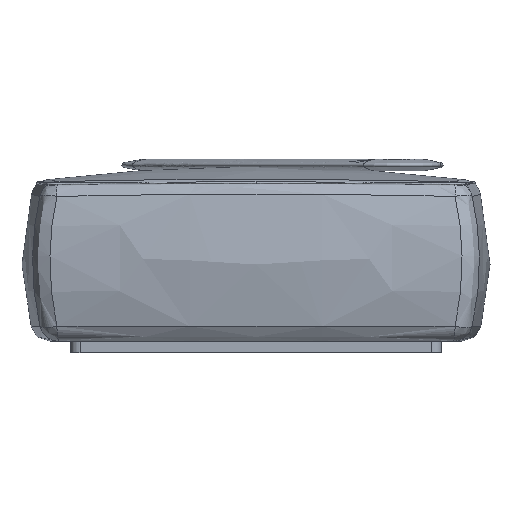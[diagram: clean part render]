
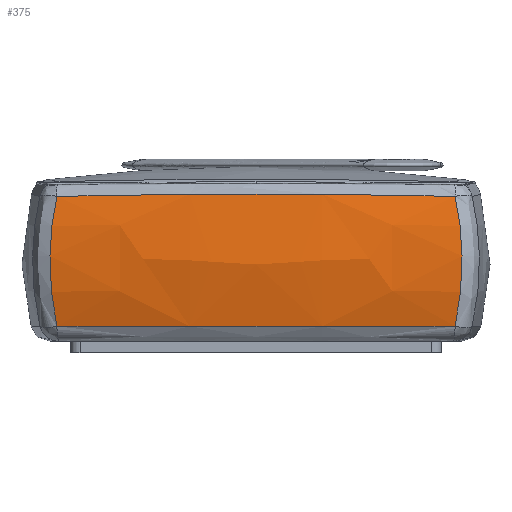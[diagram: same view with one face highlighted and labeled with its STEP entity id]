
A CAD part, left-side view. The second image highlights one B-rep face of the part: STEP entity #375.
In plain terms, the highlighted free-form (B-spline) face has degree [3, 2] with [5, 3] control points.
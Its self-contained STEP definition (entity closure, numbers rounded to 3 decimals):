
#56=(
BOUNDED_CURVE()
B_SPLINE_CURVE(3,(#5373,#5374,#5375,#5376,#5377,#5378,#5379,#5380,#5381,
#5382,#5383,#5384,#5385,#5386,#5387,#5388),.UNSPECIFIED.,.F.,.F.)
B_SPLINE_CURVE_WITH_KNOTS((4,3,3,3,3,4),(28.604,97.025,
167.288,242.138,316.988,342.954),
 .UNSPECIFIED.)
CURVE()
GEOMETRIC_REPRESENTATION_ITEM()
RATIONAL_B_SPLINE_CURVE((1.,1.,1.,1.,1.,1.,1.,1.,1.,1.,1.,1.,1.,1.,1.,1.))
REPRESENTATION_ITEM('')
);
#60=(
BOUNDED_CURVE()
B_SPLINE_CURVE(3,(#5432,#5433,#5434,#5435,#5436,#5437,#5438,#5439,#5440,
#5441,#5442,#5443,#5444,#5445,#5446,#5447,#5448,#5449,#5450,#5451,#5452,
#5453,#5454,#5455,#5456,#5457,#5458,#5459,#5460,#5461,#5462,#5463,#5464,
#5465,#5466,#5467,#5468),.UNSPECIFIED.,.F.,.F.)
B_SPLINE_CURVE_WITH_KNOTS((4,3,3,3,3,3,3,3,3,3,3,3,4),(30.735,
79.037,150.272,221.507,299.517,377.527,
537.389,697.251,775.261,853.271,924.506,
995.741,1044.043),.UNSPECIFIED.)
CURVE()
GEOMETRIC_REPRESENTATION_ITEM()
RATIONAL_B_SPLINE_CURVE((1.,1.,1.,1.,1.,1.,1.,1.,1.,1.,1.,1.,1.,1.,1.,1.,
1.,1.,1.,1.,1.,1.,1.,1.,1.,1.,1.,1.,
1.,1.,1.,1.,
1.,1.,1.,1.,1.))
REPRESENTATION_ITEM('')
);
#66=(
BOUNDED_CURVE()
B_SPLINE_CURVE(3,(#5552,#5553,#5554,#5555,#5556,#5557,#5558,#5559,#5560,
#5561,#5562,#5563,#5564,#5565,#5566,#5567),.UNSPECIFIED.,.F.,.F.)
B_SPLINE_CURVE_WITH_KNOTS((4,3,3,3,3,4),(28.604,97.025,
167.288,242.138,316.988,342.954),
 .UNSPECIFIED.)
CURVE()
GEOMETRIC_REPRESENTATION_ITEM()
RATIONAL_B_SPLINE_CURVE((1.,1.,1.,1.,1.,1.,1.,1.,1.,1.,1.,
1.,1.,1.,1.,1.))
REPRESENTATION_ITEM('')
);
#82=(
BOUNDED_CURVE()
B_SPLINE_CURVE(3,(#5770,#5771,#5772,#5773,#5774,#5775,#5776),
 .UNSPECIFIED.,.F.,.F.)
B_SPLINE_CURVE_WITH_KNOTS((4,3,4),(30.857,537.409,1043.961),
 .UNSPECIFIED.)
CURVE()
GEOMETRIC_REPRESENTATION_ITEM()
RATIONAL_B_SPLINE_CURVE((1.,1.,1.,1.,1.,1.,1.))
REPRESENTATION_ITEM('')
);
#279=(
BOUNDED_SURFACE()
B_SPLINE_SURFACE(3,2,((#4794,#4795,#4796),(#4797,#4798,#4799),(#4800,#4801,
#4802),(#4803,#4804,#4805),(#4806,#4807,#4808)),.UNSPECIFIED.,.F.,.F.,.F.)
B_SPLINE_SURFACE_WITH_KNOTS((4,1,4),(3,3),(0.,284.546,572.936),
(0.,1208.137),.UNSPECIFIED.)
GEOMETRIC_REPRESENTATION_ITEM()
RATIONAL_B_SPLINE_SURFACE(((1.,0.993,1.),(1.,0.993,
1.),(1.,0.993,1.),(1.,0.993,1.),(1.,0.993,
1.)))
REPRESENTATION_ITEM('')
SURFACE()
);
#375=ADVANCED_FACE('',(#572),#279,.T.);
#572=FACE_OUTER_BOUND('',#769,.T.);
#769=EDGE_LOOP('',(#993,#994,#995,#996));
#993=ORIENTED_EDGE('',*,*,#1800,.T.);
#994=ORIENTED_EDGE('',*,*,#1794,.T.);
#995=ORIENTED_EDGE('',*,*,#1790,.F.);
#996=ORIENTED_EDGE('',*,*,#1816,.F.);
#1790=EDGE_CURVE('',#2396,#2395,#56,.T.);
#1794=EDGE_CURVE('',#2394,#2395,#60,.T.);
#1800=EDGE_CURVE('',#2393,#2394,#66,.T.);
#1816=EDGE_CURVE('',#2393,#2396,#82,.T.);
#2393=VERTEX_POINT('',#5331);
#2394=VERTEX_POINT('',#5332);
#2395=VERTEX_POINT('',#5333);
#2396=VERTEX_POINT('',#5334);
#4794=CARTESIAN_POINT('',(-512.74,600.,274.095));
#4795=CARTESIAN_POINT('',(-582.733,0.,274.095));
#4796=CARTESIAN_POINT('',(-512.74,-600.,274.095));
#4797=CARTESIAN_POINT('',(-548.795,600.,182.473));
#4798=CARTESIAN_POINT('',(-618.788,0.,182.473));
#4799=CARTESIAN_POINT('',(-548.795,-600.,182.473));
#4800=CARTESIAN_POINT('',(-583.952,600.,-1.491));
#4801=CARTESIAN_POINT('',(-653.945,0.,-1.491));
#4802=CARTESIAN_POINT('',(-583.952,-600.,-1.491));
#4803=CARTESIAN_POINT('',(-543.724,600.,-184.413));
#4804=CARTESIAN_POINT('',(-613.716,0.,-184.413));
#4805=CARTESIAN_POINT('',(-543.724,-600.,-184.413));
#4806=CARTESIAN_POINT('',(-504.375,600.,-276.224));
#4807=CARTESIAN_POINT('',(-574.367,0.,-276.224));
#4808=CARTESIAN_POINT('',(-504.375,-600.,-276.224));
#5331=CARTESIAN_POINT('',(-554.012,-510.514,-158.361));
#5332=CARTESIAN_POINT('',(-554.191,-510.665,174.82));
#5333=CARTESIAN_POINT('',(-554.191,510.665,174.82));
#5334=CARTESIAN_POINT('',(-554.012,510.514,-158.361));
#5373=CARTESIAN_POINT('',(-554.012,510.514,-158.361));
#5374=CARTESIAN_POINT('',(-559.345,515.541,-135.05));
#5375=CARTESIAN_POINT('',(-563.665,519.602,-111.21));
#5376=CARTESIAN_POINT('',(-566.818,522.563,-87.023));
#5377=CARTESIAN_POINT('',(-570.055,525.604,-62.185));
#5378=CARTESIAN_POINT('',(-572.061,527.485,-36.982));
#5379=CARTESIAN_POINT('',(-572.751,528.132,-11.702));
#5380=CARTESIAN_POINT('',(-573.486,528.821,15.229));
#5381=CARTESIAN_POINT('',(-572.727,528.11,42.246));
#5382=CARTESIAN_POINT('',(-570.523,526.041,68.984));
#5383=CARTESIAN_POINT('',(-568.318,523.971,95.721));
#5384=CARTESIAN_POINT('',(-564.668,520.543,122.178));
#5385=CARTESIAN_POINT('',(-559.754,515.911,148.076));
#5386=CARTESIAN_POINT('',(-558.049,514.305,157.06));
#5387=CARTESIAN_POINT('',(-556.191,512.553,165.977));
#5388=CARTESIAN_POINT('',(-554.191,510.665,174.82));
#5432=CARTESIAN_POINT('',(-554.191,-510.665,174.82));
#5433=CARTESIAN_POINT('',(-555.651,-494.487,175.403));
#5434=CARTESIAN_POINT('',(-557.052,-478.3,175.909));
#5435=CARTESIAN_POINT('',(-558.392,-462.108,176.353));
#5436=CARTESIAN_POINT('',(-560.368,-438.227,177.007));
#5437=CARTESIAN_POINT('',(-562.211,-414.333,177.527));
#5438=CARTESIAN_POINT('',(-563.912,-390.427,177.953));
#5439=CARTESIAN_POINT('',(-565.612,-366.521,178.379));
#5440=CARTESIAN_POINT('',(-567.169,-342.604,178.711));
#5441=CARTESIAN_POINT('',(-568.573,-318.677,178.994));
#5442=CARTESIAN_POINT('',(-570.11,-292.474,179.304));
#5443=CARTESIAN_POINT('',(-571.462,-266.261,179.555));
#5444=CARTESIAN_POINT('',(-572.625,-240.038,179.767));
#5445=CARTESIAN_POINT('',(-573.788,-213.816,179.98));
#5446=CARTESIAN_POINT('',(-574.761,-187.585,180.155));
#5447=CARTESIAN_POINT('',(-575.543,-161.348,180.292));
#5448=CARTESIAN_POINT('',(-577.148,-107.581,180.573));
#5449=CARTESIAN_POINT('',(-577.954,-53.791,180.697));
#5450=CARTESIAN_POINT('',(-577.954,0.,180.696));
#5451=CARTESIAN_POINT('',(-577.954,53.791,180.696));
#5452=CARTESIAN_POINT('',(-577.148,107.582,180.572));
#5453=CARTESIAN_POINT('',(-575.544,161.348,180.291));
#5454=CARTESIAN_POINT('',(-574.761,187.585,180.155));
#5455=CARTESIAN_POINT('',(-573.788,213.816,179.981));
#5456=CARTESIAN_POINT('',(-572.625,240.038,179.768));
#5457=CARTESIAN_POINT('',(-571.462,266.261,179.555));
#5458=CARTESIAN_POINT('',(-570.11,292.474,179.303));
#5459=CARTESIAN_POINT('',(-568.573,318.677,178.993));
#5460=CARTESIAN_POINT('',(-567.169,342.604,178.711));
#5461=CARTESIAN_POINT('',(-565.612,366.521,178.379));
#5462=CARTESIAN_POINT('',(-563.911,390.427,177.953));
#5463=CARTESIAN_POINT('',(-562.211,414.333,177.528));
#5464=CARTESIAN_POINT('',(-560.368,438.228,177.007));
#5465=CARTESIAN_POINT('',(-558.392,462.108,176.352));
#5466=CARTESIAN_POINT('',(-557.052,478.301,175.908));
#5467=CARTESIAN_POINT('',(-555.651,494.487,175.402));
#5468=CARTESIAN_POINT('',(-554.191,510.665,174.82));
#5552=CARTESIAN_POINT('',(-554.012,-510.514,-158.361));
#5553=CARTESIAN_POINT('',(-559.345,-515.541,-135.05));
#5554=CARTESIAN_POINT('',(-563.665,-519.602,-111.21));
#5555=CARTESIAN_POINT('',(-566.818,-522.563,-87.023));
#5556=CARTESIAN_POINT('',(-570.055,-525.604,-62.185));
#5557=CARTESIAN_POINT('',(-572.061,-527.485,-36.982));
#5558=CARTESIAN_POINT('',(-572.751,-528.132,-11.702));
#5559=CARTESIAN_POINT('',(-573.486,-528.821,15.229));
#5560=CARTESIAN_POINT('',(-572.727,-528.11,42.247));
#5561=CARTESIAN_POINT('',(-570.523,-526.041,68.984));
#5562=CARTESIAN_POINT('',(-568.318,-523.971,95.722));
#5563=CARTESIAN_POINT('',(-564.668,-520.543,122.179));
#5564=CARTESIAN_POINT('',(-559.754,-515.911,148.076));
#5565=CARTESIAN_POINT('',(-558.049,-514.305,157.06));
#5566=CARTESIAN_POINT('',(-556.191,-512.553,165.977));
#5567=CARTESIAN_POINT('',(-554.191,-510.665,174.82));
#5770=CARTESIAN_POINT('',(-554.012,-510.514,-158.361));
#5771=CARTESIAN_POINT('',(-570.806,-340.895,-158.401));
#5772=CARTESIAN_POINT('',(-579.224,-170.447,-158.421));
#5773=CARTESIAN_POINT('',(-579.224,0.,-158.421));
#5774=CARTESIAN_POINT('',(-579.224,170.447,-158.421));
#5775=CARTESIAN_POINT('',(-570.806,340.895,-158.401));
#5776=CARTESIAN_POINT('',(-554.012,510.514,-158.361));
